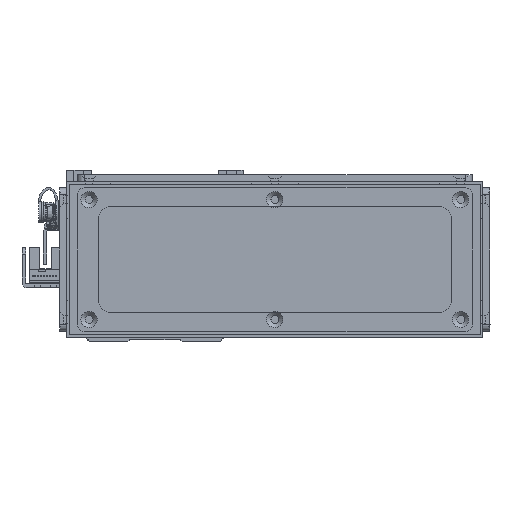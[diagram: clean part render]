
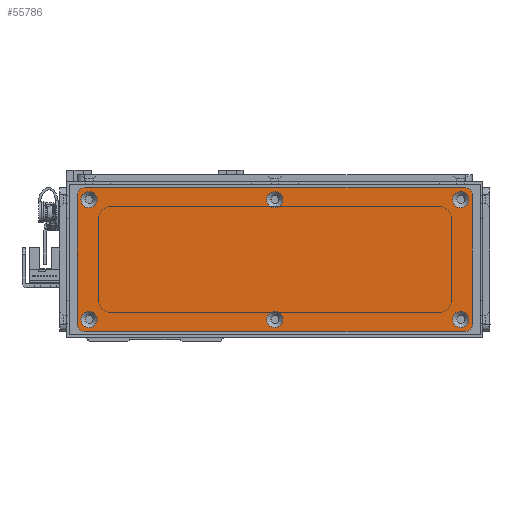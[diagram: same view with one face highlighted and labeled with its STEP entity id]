
A CAD part, left-side view. The second image highlights one B-rep face of the part: STEP entity #55786.
In plain terms, the highlighted planar face has unit normal (-1, 0, 0) as drawn and (0, 0, 1) by its records, which use the part's own axes.
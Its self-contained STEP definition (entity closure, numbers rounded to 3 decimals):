
#2729=FACE_BOUND('',#9382,.T.);
#2730=FACE_BOUND('',#9383,.T.);
#2731=FACE_BOUND('',#9384,.T.);
#2732=FACE_BOUND('',#9385,.T.);
#2733=FACE_BOUND('',#9386,.T.);
#2734=FACE_BOUND('',#9387,.T.);
#3376=PLANE('',#60257);
#6096=FACE_OUTER_BOUND('',#9381,.T.);
#9381=EDGE_LOOP('',(#44143,#44144,#44145,#44146,#44147,#44148,#44149,#44150));
#9382=EDGE_LOOP('',(#44151));
#9383=EDGE_LOOP('',(#44152));
#9384=EDGE_LOOP('',(#44153));
#9385=EDGE_LOOP('',(#44154));
#9386=EDGE_LOOP('',(#44155));
#9387=EDGE_LOOP('',(#44156));
#12962=LINE('',#83979,#19257);
#12965=LINE('',#83987,#19260);
#12968=LINE('',#83995,#19263);
#12971=LINE('',#84002,#19266);
#19257=VECTOR('',#68567,10.);
#19260=VECTOR('',#68576,10.);
#19263=VECTOR('',#68585,10.);
#19266=VECTOR('',#68594,10.);
#24979=CIRCLE('',#60211,3.45);
#24982=CIRCLE('',#60216,3.45);
#24985=CIRCLE('',#60221,3.45);
#24988=CIRCLE('',#60226,3.45);
#24991=CIRCLE('',#60231,3.45);
#24994=CIRCLE('',#60236,3.45);
#25001=CIRCLE('',#60246,3.);
#25002=CIRCLE('',#60249,3.);
#25003=CIRCLE('',#60252,3.);
#25004=CIRCLE('',#60255,3.);
#27168=VERTEX_POINT('',#83895);
#27171=VERTEX_POINT('',#83905);
#27174=VERTEX_POINT('',#83915);
#27177=VERTEX_POINT('',#83925);
#27180=VERTEX_POINT('',#83935);
#27183=VERTEX_POINT('',#83945);
#27194=VERTEX_POINT('',#83972);
#27195=VERTEX_POINT('',#83974);
#27196=VERTEX_POINT('',#83978);
#27197=VERTEX_POINT('',#83982);
#27198=VERTEX_POINT('',#83986);
#27199=VERTEX_POINT('',#83990);
#27200=VERTEX_POINT('',#83994);
#27201=VERTEX_POINT('',#83998);
#33346=EDGE_CURVE('',#27168,#27168,#24979,.T.);
#33351=EDGE_CURVE('',#27171,#27171,#24982,.T.);
#33356=EDGE_CURVE('',#27174,#27174,#24985,.T.);
#33361=EDGE_CURVE('',#27177,#27177,#24988,.T.);
#33366=EDGE_CURVE('',#27180,#27180,#24991,.T.);
#33371=EDGE_CURVE('',#27183,#27183,#24994,.T.);
#33385=EDGE_CURVE('',#27195,#27194,#25001,.T.);
#33387=EDGE_CURVE('',#27196,#27195,#12962,.T.);
#33389=EDGE_CURVE('',#27197,#27196,#25002,.T.);
#33391=EDGE_CURVE('',#27198,#27197,#12965,.T.);
#33393=EDGE_CURVE('',#27199,#27198,#25003,.T.);
#33395=EDGE_CURVE('',#27200,#27199,#12968,.T.);
#33397=EDGE_CURVE('',#27201,#27200,#25004,.T.);
#33399=EDGE_CURVE('',#27194,#27201,#12971,.T.);
#44143=ORIENTED_EDGE('',*,*,#33399,.T.);
#44144=ORIENTED_EDGE('',*,*,#33397,.T.);
#44145=ORIENTED_EDGE('',*,*,#33395,.T.);
#44146=ORIENTED_EDGE('',*,*,#33393,.T.);
#44147=ORIENTED_EDGE('',*,*,#33391,.T.);
#44148=ORIENTED_EDGE('',*,*,#33389,.T.);
#44149=ORIENTED_EDGE('',*,*,#33387,.T.);
#44150=ORIENTED_EDGE('',*,*,#33385,.T.);
#44151=ORIENTED_EDGE('',*,*,#33346,.T.);
#44152=ORIENTED_EDGE('',*,*,#33351,.T.);
#44153=ORIENTED_EDGE('',*,*,#33356,.T.);
#44154=ORIENTED_EDGE('',*,*,#33361,.T.);
#44155=ORIENTED_EDGE('',*,*,#33366,.T.);
#44156=ORIENTED_EDGE('',*,*,#33371,.T.);
#55786=ADVANCED_FACE('',(#6096,#2729,#2730,#2731,#2732,#2733,#2734),#3376,
 .T.);
#60211=AXIS2_PLACEMENT_3D('',#83896,#68475,#68476);
#60216=AXIS2_PLACEMENT_3D('',#83906,#68487,#68488);
#60221=AXIS2_PLACEMENT_3D('',#83916,#68499,#68500);
#60226=AXIS2_PLACEMENT_3D('',#83926,#68511,#68512);
#60231=AXIS2_PLACEMENT_3D('',#83936,#68523,#68524);
#60236=AXIS2_PLACEMENT_3D('',#83946,#68535,#68536);
#60246=AXIS2_PLACEMENT_3D('',#83975,#68562,#68563);
#60249=AXIS2_PLACEMENT_3D('',#83983,#68571,#68572);
#60252=AXIS2_PLACEMENT_3D('',#83991,#68580,#68581);
#60255=AXIS2_PLACEMENT_3D('',#83999,#68589,#68590);
#60257=AXIS2_PLACEMENT_3D('',#84003,#68595,#68596);
#68475=DIRECTION('center_axis',(0.,0.,-1.));
#68476=DIRECTION('ref_axis',(1.,0.,0.));
#68487=DIRECTION('center_axis',(0.,0.,-1.));
#68488=DIRECTION('ref_axis',(1.,0.,0.));
#68499=DIRECTION('center_axis',(0.,0.,-1.));
#68500=DIRECTION('ref_axis',(1.,0.,0.));
#68511=DIRECTION('center_axis',(0.,0.,-1.));
#68512=DIRECTION('ref_axis',(1.,0.,0.));
#68523=DIRECTION('center_axis',(0.,0.,-1.));
#68524=DIRECTION('ref_axis',(1.,0.,0.));
#68535=DIRECTION('center_axis',(0.,0.,-1.));
#68536=DIRECTION('ref_axis',(1.,0.,0.));
#68562=DIRECTION('center_axis',(0.,0.,1.));
#68563=DIRECTION('ref_axis',(-1.,0.,0.));
#68567=DIRECTION('',(0.,1.,0.));
#68571=DIRECTION('center_axis',(0.,0.,1.));
#68572=DIRECTION('ref_axis',(0.,1.,0.));
#68576=DIRECTION('',(1.,0.,0.));
#68580=DIRECTION('center_axis',(0.,0.,1.));
#68581=DIRECTION('ref_axis',(1.,0.,0.));
#68585=DIRECTION('',(0.,-1.,0.));
#68589=DIRECTION('center_axis',(0.,0.,1.));
#68590=DIRECTION('ref_axis',(0.,-1.,0.));
#68594=DIRECTION('',(-1.,0.,0.));
#68595=DIRECTION('center_axis',(0.,0.,1.));
#68596=DIRECTION('ref_axis',(1.,0.,0.));
#83895=CARTESIAN_POINT('',(-3.45,25.5,1.5));
#83896=CARTESIAN_POINT('Origin',(0.,25.5,1.5));
#83905=CARTESIAN_POINT('',(75.55,-25.5,1.5));
#83906=CARTESIAN_POINT('Origin',(79.,-25.5,1.5));
#83915=CARTESIAN_POINT('',(-82.45,25.5,1.5));
#83916=CARTESIAN_POINT('Origin',(-79.,25.5,1.5));
#83925=CARTESIAN_POINT('',(75.55,25.5,1.5));
#83926=CARTESIAN_POINT('Origin',(79.,25.5,1.5));
#83935=CARTESIAN_POINT('',(-82.45,-25.5,1.5));
#83936=CARTESIAN_POINT('Origin',(-79.,-25.5,1.5));
#83945=CARTESIAN_POINT('',(-3.45,-25.5,1.5));
#83946=CARTESIAN_POINT('Origin',(0.,-25.5,1.5));
#83972=CARTESIAN_POINT('',(81.,30.5,1.5));
#83974=CARTESIAN_POINT('',(84.,27.5,1.5));
#83975=CARTESIAN_POINT('Origin',(81.,27.5,1.5));
#83978=CARTESIAN_POINT('',(84.,-27.5,1.5));
#83979=CARTESIAN_POINT('',(84.,27.5,1.5));
#83982=CARTESIAN_POINT('',(81.,-30.5,1.5));
#83983=CARTESIAN_POINT('Origin',(81.,-27.5,1.5));
#83986=CARTESIAN_POINT('',(-81.,-30.5,1.5));
#83987=CARTESIAN_POINT('',(81.,-30.5,1.5));
#83990=CARTESIAN_POINT('',(-84.,-27.5,1.5));
#83991=CARTESIAN_POINT('Origin',(-81.,-27.5,1.5));
#83994=CARTESIAN_POINT('',(-84.,27.5,1.5));
#83995=CARTESIAN_POINT('',(-84.,-27.5,1.5));
#83998=CARTESIAN_POINT('',(-81.,30.5,1.5));
#83999=CARTESIAN_POINT('Origin',(-81.,27.5,1.5));
#84002=CARTESIAN_POINT('',(-81.,30.5,1.5));
#84003=CARTESIAN_POINT('Origin',(0.,0.,
1.5));
